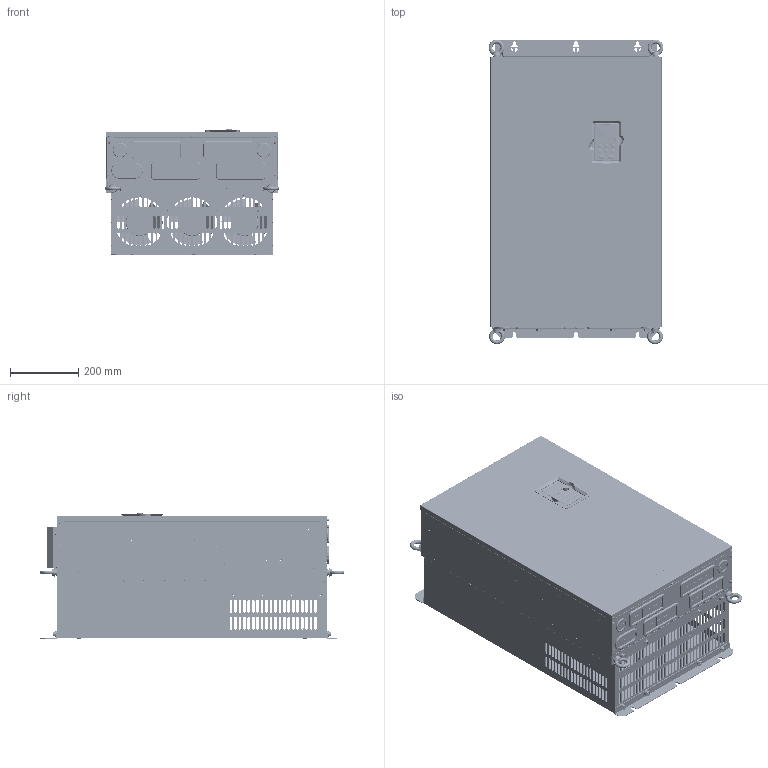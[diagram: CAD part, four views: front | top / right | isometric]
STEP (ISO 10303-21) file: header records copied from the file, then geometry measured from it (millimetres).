
FILE_DESCRIPTION((''),'2;1');
FILE_NAME('GD300-200G-4-F2_ASM','2016-03-10T',('Administrator'),(''),'PRO/ENGINEER BY PARAMETRIC TECHNOLOGY CORPORATION, 2010100','PRO/ENGINEER BY PARAMETRIC TECHNOLOGY CORPORATION, 2010100','');
FILE_SCHEMA(('CONFIG_CONTROL_DESIGN'));
Products named in the file (94): FAN-171X151_DC; 2-21-19-082-BP802524HL; DIANZI-FAN_ASM; DIANZI-JIECHUQI_ASM; B35503005; 39004-00038; 39004-00035; 39004-00034; DIANZI-HUXIANHUANG_ASM; CONTROL_PCB_01_SSS; CONTROL_TERMINAL_02_SSS; CONTROL_TERMINAL_01_SSS; 80780002; INVT8_034_0058__0; INVT8_034_0059__0; INVT8_034_0060__0; INVT8_034_0065__0; INVT8_034_0064__0; SHUMAGUAN__0; AA-SU_ASM; CONTROL_PCB_SSSS_ASM; TD20-600V-20A; CHE200-200G-4-DIANZI_ASM; 77550183; 77550185; 77550185_ASM; 77550186; 77550448; 77550449; 77550450; 77550192; NZ-M5-ZC; 77550192_ASM; 77550193; 77550196; 40850041_ASM; GB9074_4_M4X35; GB9074_4_M4X60; GB9074_13_M8X20; GB9074_13_M6X12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
Assembly tree (368 placements, depth 5):
  GD300-200G-4-F2_ASM
    CHE200-200G-4-DIANZI_ASM
      DIANZI-FAN_ASM
        FAN-171X151_DC  x3
        2-21-19-082-BP802524HL  x2
      DIANZI-JIECHUQI_ASM
      DIANZI-HUXIANHUANG_ASM
        B35503005  x4
        39004-00038  x2
        39004-00035
        39004-00034
      CONTROL_PCB_SSSS_ASM
        CONTROL_PCB_01_SSS
        CONTROL_TERMINAL_02_SSS
        CONTROL_TERMINAL_01_SSS
        80780002
        AA-SU_ASM
          INVT8_034_0058__0
          INVT8_034_0059__0
          INVT8_034_0060__0
          INVT8_034_0065__0
          INVT8_034_0064__0
          SHUMAGUAN__0
      TD20-600V-20A
    40850041_ASM
      77550183
      77550185_ASM  x3
        77550185
      77550186
      77550448
      77550449
      77550450
      77550192_ASM
        77550192
        NZ-M5-ZC
      77550193  x2
      77550196
    GD300-200G-4-F2-FS_ASM
      GB9074_4_M4X35  x8
      GB9074_4_M4X60  x6
      GB9074_13_M8X20  x16
      GB9074_13_M6X12  x4
      GB12_M12X30_FEI_ZU  x11
      GB97_1_12_ZU  x11
      GB93_12_ZU  x11
      GB6170_M12_ZU  x11
      GB9074_13_M5X12  x8
      GB9074_4_M3X8  x2
      GB9074_4_M4X10  x11
      GB9074_13_M8X25  x4
    40800224_ASM
      61060178_ASM
        80381427_ASM
          80381427
          S-M8-ZC  x8
          S-M4-ZC  x6
        80380167_ASM
          80380167
          S-M4-ZC  x8
          BSO-M4-12-ZC  x2
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Bounding box: 511.2 x 890.1 x 368.37 mm (x, y, z)
Volume: 5690194.7 mm3; surface area: 5783597.1 mm2
Topology: 348 solids, 366 shells, 16436 faces, 41897 edges, 26771 vertices
Faces by surface type: plane 9088, cylinder 4558, cone 1681, torus 628, bspline 330, sphere 146, extrusion 5
Entity records: 257445 total; most frequent: CARTESIAN_POINT 60506, DIRECTION 41048, ORIENTED_EDGE 40163, EDGE_CURVE 20124, AXIS2_PLACEMENT_3D 14370, VERTEX_POINT 12892, VECTOR 12308, LINE 12303
